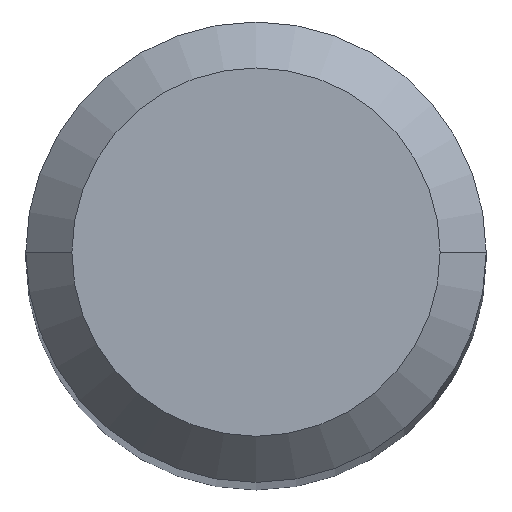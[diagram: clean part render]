
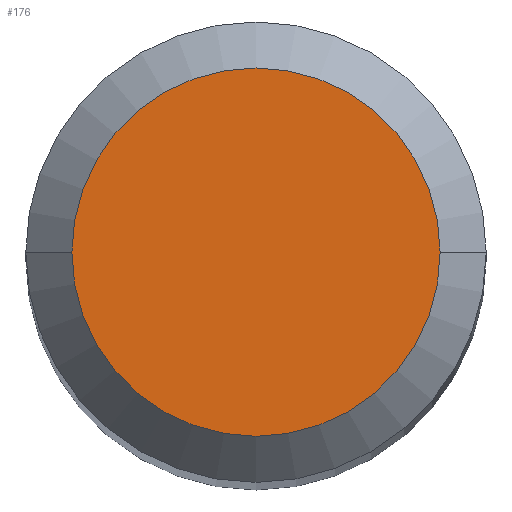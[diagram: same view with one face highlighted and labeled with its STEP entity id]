
A CAD part, top view. The second image highlights one B-rep face of the part: STEP entity #176.
In plain terms, the highlighted planar face has unit normal (0, 0, 1).
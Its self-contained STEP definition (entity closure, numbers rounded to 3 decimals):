
#13 = CIRCLE ( 'NONE', #118, 1.6 ) ;
#51 = DIRECTION ( 'NONE',  ( 0., 0., -1. ) ) ;
#118 = AXIS2_PLACEMENT_3D ( 'NONE', #479, #567, #436 ) ;
#150 = FACE_OUTER_BOUND ( 'NONE', #601, .T. ) ;
#176 = ADVANCED_FACE ( 'NONE', ( #150 ), #440, .T. ) ;
#209 = AXIS2_PLACEMENT_3D ( 'NONE', #396, #340, #483 ) ;
#210 = AXIS2_PLACEMENT_3D ( 'NONE', #618, #51, #280 ) ;
#239 = VERTEX_POINT ( 'NONE', #584 ) ;
#266 = ORIENTED_EDGE ( 'NONE', *, *, #497, .F. ) ;
#275 = CARTESIAN_POINT ( 'NONE',  ( -1.6, 0., 0. ) ) ;
#280 = DIRECTION ( 'NONE',  ( -1., 0., 0. ) ) ;
#340 = DIRECTION ( 'NONE',  ( 0., 0., 1. ) ) ;
#365 = ORIENTED_EDGE ( 'NONE', *, *, #507, .F. ) ;
#396 = CARTESIAN_POINT ( 'NONE',  ( 0., 1.6, 0. ) ) ;
#436 = DIRECTION ( 'NONE',  ( -1., 0., 0. ) ) ;
#440 = PLANE ( 'NONE',  #209 ) ;
#471 = VERTEX_POINT ( 'NONE', #275 ) ;
#479 = CARTESIAN_POINT ( 'NONE',  ( 0., 0., 0. ) ) ;
#482 = CIRCLE ( 'NONE', #210, 1.6 ) ;
#483 = DIRECTION ( 'NONE',  ( 1., 0., 0. ) ) ;
#497 = EDGE_CURVE ( 'NONE', #471, #239, #482, .T. ) ;
#507 = EDGE_CURVE ( 'NONE', #239, #471, #13, .T. ) ;
#567 = DIRECTION ( 'NONE',  ( 0., 0., -1. ) ) ;
#584 = CARTESIAN_POINT ( 'NONE',  ( 1.6, 0., 0. ) ) ;
#601 = EDGE_LOOP ( 'NONE', ( #266, #365 ) ) ;
#618 = CARTESIAN_POINT ( 'NONE',  ( 0., 0., 0. ) ) ;
